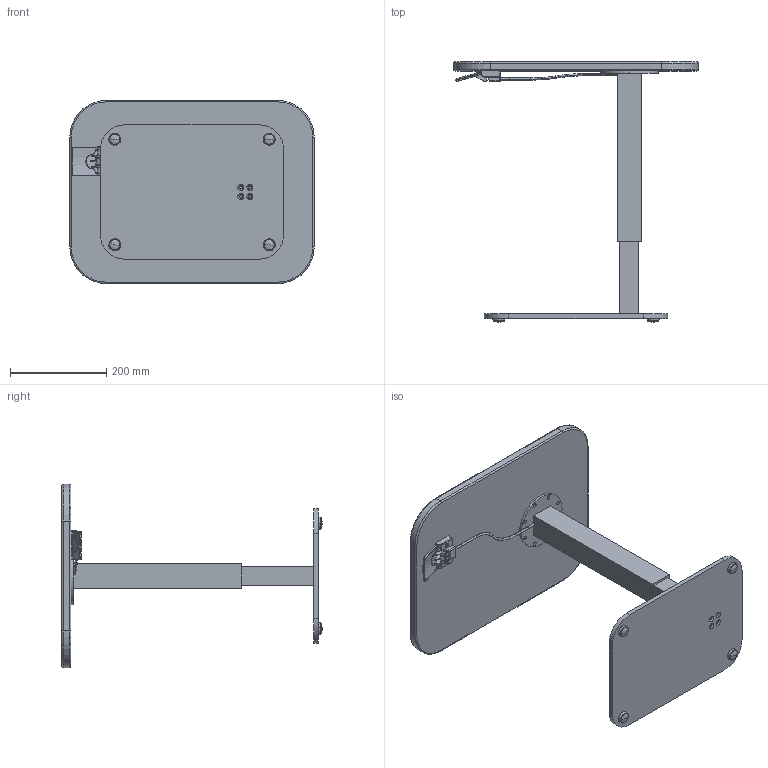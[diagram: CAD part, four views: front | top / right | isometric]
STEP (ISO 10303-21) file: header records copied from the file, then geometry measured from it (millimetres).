
FILE_DESCRIPTION (( 'STEP AP203' ), '1' );
FILE_NAME ('15x20 Rectangle Long Mount-HT.ADJ.-Lowest PositionSTEP.STEP', '2024-10-30T12:34:28', ( '' ), ( '' ), 'SwSTEP 2.0', 'SolidWorks 2021', '' );
FILE_SCHEMA (( 'CONFIG_CONTROL_DESIGN' ));
Length unit declared in the file: inch
Products named in the file (13): 11x15_Rectangle_C_Baseplate; 15x20 Rectangle Long Mount-HT.ADJ.-Lowest PositionSTEP; Paddle; TT-15x20-Lam; Paddle Control; 11x15_Rectangle_C_Baseplate Assy; TT-15x20-Core; ALG-SS; Paddle Control Base; Paddle Shift Cable; TT-15x20-EB; TT-15x20; Proto laptop STAND
Assembly tree (15 placements, depth 3):
  15x20 Rectangle Long Mount-HT.ADJ.-Lowest PositionSTEP
    11x15_Rectangle_C_Baseplate Assy
      11x15_Rectangle_C_Baseplate
      ALG-SS  x4
    Proto laptop STAND
    Paddle Control
      Paddle Control Base
      Paddle
    Paddle Shift Cable
    TT-15x20
      TT-15x20-Core
      TT-15x20-Lam
      TT-15x20-EB
Bounding box: 508 x 541.58 x 381 mm (x, y, z)
Volume: 5745813.9 mm3; surface area: 1242979.5 mm2
Topology: 18 solids, 18 shells, 538 faces, 1236 edges, 723 vertices
Faces by surface type: cylinder 189, plane 159, cone 128, torus 30, bspline 16, sphere 16
Entity records: 13190 total; most frequent: CARTESIAN_POINT 2669, DIRECTION 1987, ORIENTED_EDGE 1822, EDGE_CURVE 911, AXIS2_PLACEMENT_3D 727, VERTEX_POINT 558, LINE 533, VECTOR 533
